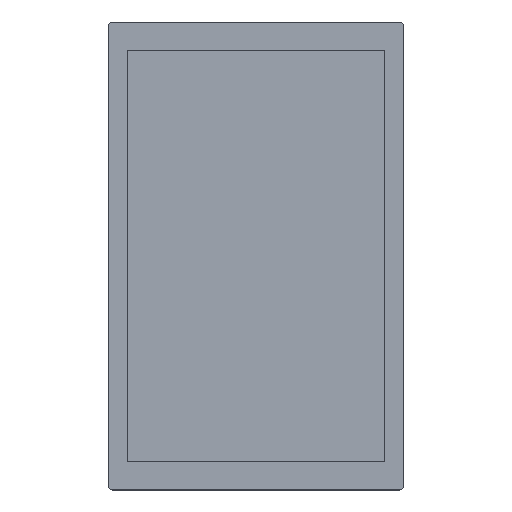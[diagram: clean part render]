
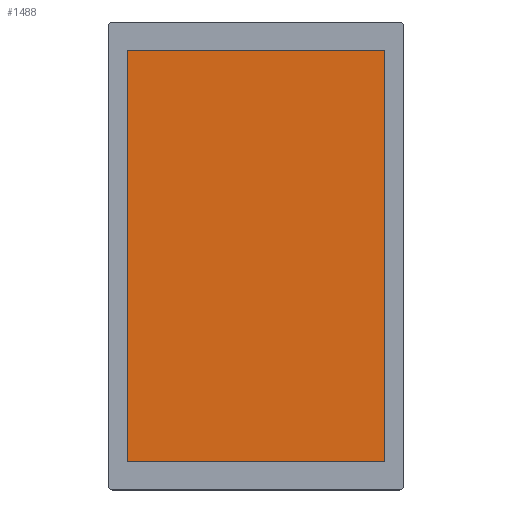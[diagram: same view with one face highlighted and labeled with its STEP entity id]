
A CAD part, top view. The second image highlights one B-rep face of the part: STEP entity #1488.
In plain terms, the highlighted planar face has unit normal (0, 0, 1).
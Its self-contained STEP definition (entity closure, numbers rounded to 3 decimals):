
#1235=DIRECTION('',(0.,-1.,0.));
#1236=VECTOR('',#1235,216.58);
#1237=CARTESIAN_POINT('',(-67.68,108.29,2.7));
#1238=LINE('',#1237,#1236);
#1239=DIRECTION('',(-1.,0.,0.));
#1240=VECTOR('',#1239,135.36);
#1241=CARTESIAN_POINT('',(67.68,108.29,2.7));
#1242=LINE('',#1241,#1240);
#1243=DIRECTION('',(0.,1.,0.));
#1244=VECTOR('',#1243,216.58);
#1245=CARTESIAN_POINT('',(67.68,-108.29,2.7));
#1246=LINE('',#1245,#1244);
#1247=DIRECTION('',(1.,0.,0.));
#1248=VECTOR('',#1247,135.36);
#1249=CARTESIAN_POINT('',(-67.68,-108.29,2.7));
#1250=LINE('',#1249,#1248);
#1275=CARTESIAN_POINT('',(-67.68,108.29,2.7));
#1276=CARTESIAN_POINT('',(-67.68,-108.29,2.7));
#1277=VERTEX_POINT('',#1275);
#1278=VERTEX_POINT('',#1276);
#1279=CARTESIAN_POINT('',(67.68,-108.29,2.7));
#1280=VERTEX_POINT('',#1279);
#1281=CARTESIAN_POINT('',(67.68,108.29,2.7));
#1282=VERTEX_POINT('',#1281);
#1477=CARTESIAN_POINT('',(0.,0.,2.7));
#1478=DIRECTION('',(0.,0.,1.));
#1479=DIRECTION('',(1.,0.,0.));
#1480=AXIS2_PLACEMENT_3D('',#1477,#1478,#1479);
#1481=PLANE('',#1480);
#1482=ORIENTED_EDGE('',*,*,#1429,.F.);
#1483=ORIENTED_EDGE('',*,*,#1444,.F.);
#1484=ORIENTED_EDGE('',*,*,#1458,.F.);
#1485=ORIENTED_EDGE('',*,*,#1471,.F.);
#1486=EDGE_LOOP('',(#1482,#1483,#1484,#1485));
#1487=FACE_OUTER_BOUND('',#1486,.F.);
#1488=ADVANCED_FACE('',(#1487),#1481,.T.);
#1429=EDGE_CURVE('',#1277,#1278,#1238,.T.);
#1444=EDGE_CURVE('',#1282,#1277,#1242,.T.);
#1458=EDGE_CURVE('',#1280,#1282,#1246,.T.);
#1471=EDGE_CURVE('',#1278,#1280,#1250,.T.);
